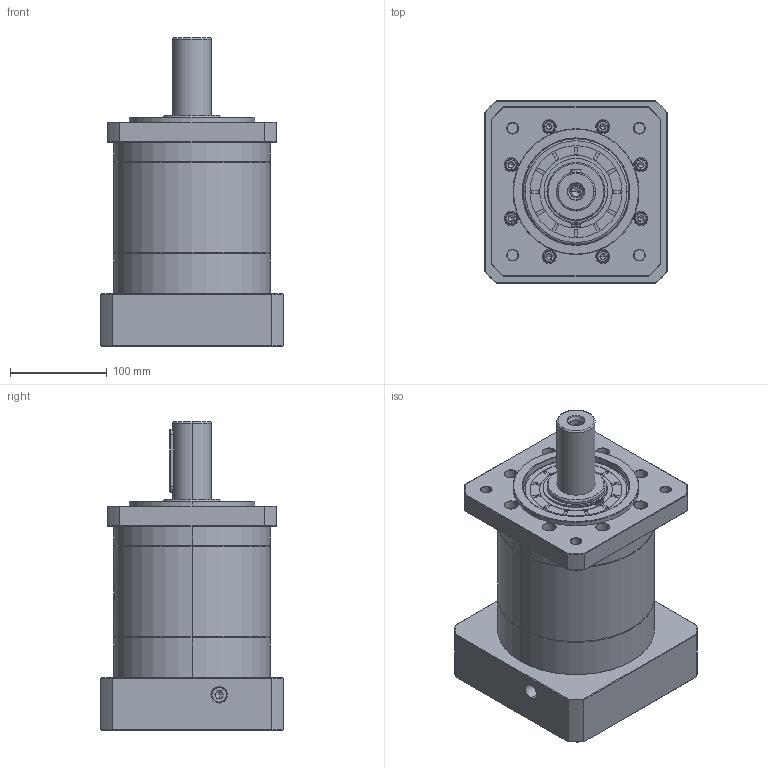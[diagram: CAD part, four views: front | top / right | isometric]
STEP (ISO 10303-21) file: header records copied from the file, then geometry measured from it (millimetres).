
FILE_DESCRIPTION (( 'STEP AP214' ), '1' );
FILE_NAME ('ZF160-D40-L2-38-180-215-M12.step', '2023-03-21T04:29:48', ( '' ), ( '' ), 'SwSTEP 2.0', 'SolidWorks 2016', '' );
FILE_SCHEMA (( 'AUTOMOTIVE_DESIGN' ));
Length unit declared in the file: millimetre
Products named in the file (1): ZF160-D40-L2-38-180-215-M12
Bounding box: 188 x 188 x 318.2 mm (x, y, z)
Volume: 5301593.7 mm3; surface area: 375825.5 mm2
Topology: 6 solids, 6 shells, 1618 faces, 4210 edges, 2696 vertices
Faces by surface type: plane 644, cylinder 408, cone 326, bspline 218, torus 22
Entity records: 93206 total; most frequent: CARTESIAN_POINT 37910, ORIENTED_EDGE 8360, DIRECTION 7104, EDGE_CURVE 4180, VERTEX_POINT 2696, AXIS2_PLACEMENT_3D 2464, LINE 2176, VECTOR 2176
